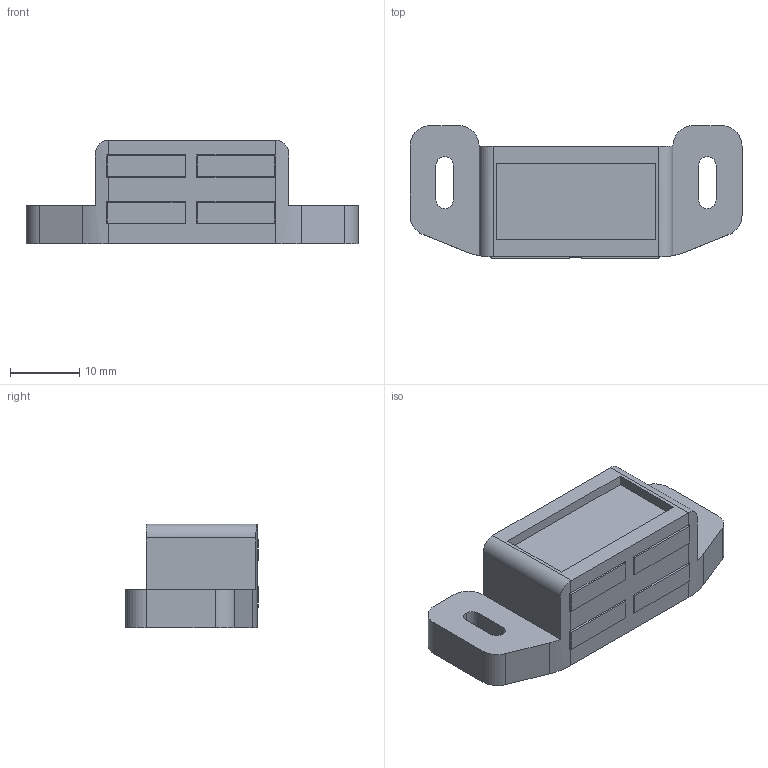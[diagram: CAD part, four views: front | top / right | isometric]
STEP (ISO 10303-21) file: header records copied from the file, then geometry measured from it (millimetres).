
FILE_DESCRIPTION((''),'2;1');
FILE_NAME('6470.13.stp','2023-10-12T12:14:27',(''),(''),'Mechanical Desktop 2006','Mechanical Desktop 2006',', , ');
FILE_SCHEMA(('CONFIG_CONTROL_DESIGN'));
Length unit declared in the file: millimetre
Products named in the file (3): 6470.13; 1; 1A
Assembly tree (1 placements, depth 2):
  6470.13
    1
  1A
Bounding box: 48 x 19.2 x 15 mm (x, y, z)
Volume: 7952.2 mm3; surface area: 3530.9 mm2
Topology: 1 solids, 1 shells, 87 faces, 238 edges, 158 vertices
Faces by surface type: plane 67, cylinder 20
Entity records: 2990 total; most frequent: CARTESIAN_POINT 520, ORIENTED_EDGE 476, DIRECTION 464, EDGE_CURVE 238, VECTOR 188, LINE 188, VERTEX_POINT 158, AXIS2_PLACEMENT_3D 138
